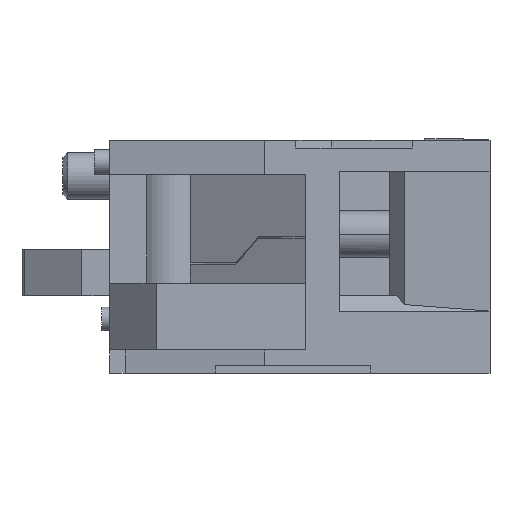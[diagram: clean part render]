
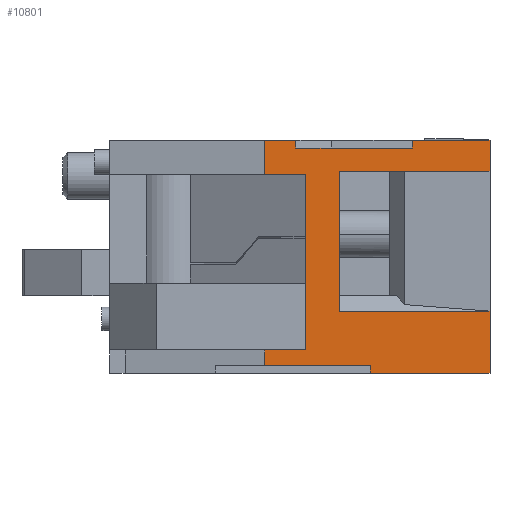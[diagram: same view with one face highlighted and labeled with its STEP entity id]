
A CAD part, left-side view. The second image highlights one B-rep face of the part: STEP entity #10801.
In plain terms, the highlighted planar face has unit normal (-1, 0, 0).
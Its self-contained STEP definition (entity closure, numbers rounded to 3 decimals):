
#189 = CARTESIAN_POINT ( 'NONE',  ( -14.75, -7.25, 15. ) ) ;
#265 = ORIENTED_EDGE ( 'NONE', *, *, #6056, .F. ) ;
#366 = VERTEX_POINT ( 'NONE', #8023 ) ;
#439 = CARTESIAN_POINT ( 'NONE',  ( -14.75, -0.35, 12.8 ) ) ;
#491 = EDGE_CURVE ( 'NONE', #366, #3977, #4374, .T. ) ;
#519 = VERTEX_POINT ( 'NONE', #2051 ) ;
#560 = EDGE_CURVE ( 'NONE', #6769, #1369, #902, .T. ) ;
#574 = LINE ( 'NONE', #5024, #9660 ) ;
#590 = VERTEX_POINT ( 'NONE', #10063 ) ;
#603 = CARTESIAN_POINT ( 'NONE',  ( -14.75, 0.25, 14.5 ) ) ;
#685 = CARTESIAN_POINT ( 'NONE',  ( -14.75, -12.25, 13. ) ) ;
#757 = CARTESIAN_POINT ( 'NONE',  ( -14.75, -5.75, 13. ) ) ;
#776 = DIRECTION ( 'NONE',  ( 0., 1., 0. ) ) ;
#902 = LINE ( 'NONE', #3028, #9973 ) ;
#904 = CARTESIAN_POINT ( 'NONE',  ( -14.75, -12.25, 0. ) ) ;
#1034 = ORIENTED_EDGE ( 'NONE', *, *, #2079, .F. ) ;
#1073 = DIRECTION ( 'NONE',  ( 0., -1., 0. ) ) ;
#1237 = LINE ( 'NONE', #8124, #5668 ) ;
#1348 = ORIENTED_EDGE ( 'NONE', *, *, #10605, .T. ) ;
#1369 = VERTEX_POINT ( 'NONE', #9600 ) ;
#1390 = ORIENTED_EDGE ( 'NONE', *, *, #4714, .F. ) ;
#1614 = LINE ( 'NONE', #7503, #6042 ) ;
#1750 = VERTEX_POINT ( 'NONE', #2438 ) ;
#1835 = VECTOR ( 'NONE', #7258, 1000. ) ;
#1918 = ORIENTED_EDGE ( 'NONE', *, *, #10995, .F. ) ;
#1955 = VECTOR ( 'NONE', #8393, 1000. ) ;
#2007 = DIRECTION ( 'NONE',  ( 0., 0., -1. ) ) ;
#2051 = CARTESIAN_POINT ( 'NONE',  ( -14.75, 2.25, 12.8 ) ) ;
#2079 = EDGE_CURVE ( 'NONE', #6727, #5574, #10752, .T. ) ;
#2119 = ORIENTED_EDGE ( 'NONE', *, *, #5991, .F. ) ;
#2438 = CARTESIAN_POINT ( 'NONE',  ( -14.75, 2.25, 0.5 ) ) ;
#2640 = VECTOR ( 'NONE', #6359, 1000. ) ;
#2793 = CARTESIAN_POINT ( 'NONE',  ( -14.75, 2.25, 1.5 ) ) ;
#2829 = ORIENTED_EDGE ( 'NONE', *, *, #3347, .T. ) ;
#2876 = LINE ( 'NONE', #4184, #4939 ) ;
#2981 = CARTESIAN_POINT ( 'NONE',  ( -14.75, -12.25, 15. ) ) ;
#3028 = CARTESIAN_POINT ( 'NONE',  ( -14.75, -12.25, 15. ) ) ;
#3035 = VECTOR ( 'NONE', #5325, 1000. ) ;
#3093 = CARTESIAN_POINT ( 'NONE',  ( -14.75, 0.25, 14.5 ) ) ;
#3347 = EDGE_CURVE ( 'NONE', #3743, #3998, #7196, .T. ) ;
#3407 = ORIENTED_EDGE ( 'NONE', *, *, #9380, .T. ) ;
#3434 = EDGE_LOOP ( 'NONE', ( #7631, #4710, #2829, #8449, #3407, #4458, #11154, #1034, #6610, #5505, #9369, #1918, #9407, #265, #7464, #1348, #1390, #2119 ) ) ;
#3436 = DIRECTION ( 'NONE',  ( 0., -1., 0. ) ) ;
#3618 = CARTESIAN_POINT ( 'NONE',  ( -14.75, -12.25, 4. ) ) ;
#3621 = FACE_OUTER_BOUND ( 'NONE', #3434, .T. ) ;
#3743 = VERTEX_POINT ( 'NONE', #5806 ) ;
#3799 = CARTESIAN_POINT ( 'NONE',  ( -14.75, -2.55, 13. ) ) ;
#3859 = LINE ( 'NONE', #757, #10550 ) ;
#3977 = VERTEX_POINT ( 'NONE', #4531 ) ;
#3998 = VERTEX_POINT ( 'NONE', #2793 ) ;
#4027 = EDGE_CURVE ( 'NONE', #10465, #590, #7327, .T. ) ;
#4048 = CARTESIAN_POINT ( 'NONE',  ( -14.75, -12.25, 0.5 ) ) ;
#4091 = VECTOR ( 'NONE', #10776, 1000. ) ;
#4167 = CARTESIAN_POINT ( 'NONE',  ( -14.75, -7.25, 14.5 ) ) ;
#4184 = CARTESIAN_POINT ( 'NONE',  ( -14.75, 2.25, 0. ) ) ;
#4214 = VERTEX_POINT ( 'NONE', #3093 ) ;
#4351 = CARTESIAN_POINT ( 'NONE',  ( -14.75, -0.35, 1.5 ) ) ;
#4355 = VERTEX_POINT ( 'NONE', #4167 ) ;
#4374 = LINE ( 'NONE', #3799, #4091 ) ;
#4458 = ORIENTED_EDGE ( 'NONE', *, *, #4027, .F. ) ;
#4531 = CARTESIAN_POINT ( 'NONE',  ( -14.75, -2.55, 13. ) ) ;
#4633 = EDGE_CURVE ( 'NONE', #4214, #4355, #1237, .T. ) ;
#4710 = ORIENTED_EDGE ( 'NONE', *, *, #8144, .T. ) ;
#4714 = EDGE_CURVE ( 'NONE', #10345, #7277, #9759, .T. ) ;
#4759 = LINE ( 'NONE', #10691, #1835 ) ;
#4822 = VERTEX_POINT ( 'NONE', #439 ) ;
#4925 = AXIS2_PLACEMENT_3D ( 'NONE', #6411, #7294, #2007 ) ;
#4939 = VECTOR ( 'NONE', #9426, 1000. ) ;
#5024 = CARTESIAN_POINT ( 'NONE',  ( -14.75, -12.25, 0. ) ) ;
#5177 = CARTESIAN_POINT ( 'NONE',  ( -14.75, -7.25, 14.5 ) ) ;
#5193 = LINE ( 'NONE', #7271, #7546 ) ;
#5277 = LINE ( 'NONE', #603, #5569 ) ;
#5325 = DIRECTION ( 'NONE',  ( 0., 1., 0. ) ) ;
#5374 = LINE ( 'NONE', #9678, #3035 ) ;
#5481 = CARTESIAN_POINT ( 'NONE',  ( -14.75, -4.55, 15. ) ) ;
#5492 = CARTESIAN_POINT ( 'NONE',  ( -14.75, 2.25, 15. ) ) ;
#5505 = ORIENTED_EDGE ( 'NONE', *, *, #491, .T. ) ;
#5531 = PLANE ( 'NONE',  #4925 ) ;
#5569 = VECTOR ( 'NONE', #6788, 1000. ) ;
#5574 = VERTEX_POINT ( 'NONE', #904 ) ;
#5649 = DIRECTION ( 'NONE',  ( 0., -1., 0. ) ) ;
#5668 = VECTOR ( 'NONE', #1073, 1000. ) ;
#5806 = CARTESIAN_POINT ( 'NONE',  ( -14.75, -0.35, 1.5 ) ) ;
#5895 = EDGE_CURVE ( 'NONE', #6727, #366, #1614, .T. ) ;
#5991 = EDGE_CURVE ( 'NONE', #519, #10345, #2876, .T. ) ;
#6042 = VECTOR ( 'NONE', #6684, 1000. ) ;
#6056 = EDGE_CURVE ( 'NONE', #4355, #6769, #10250, .T. ) ;
#6359 = DIRECTION ( 'NONE',  ( 0., 0., 1. ) ) ;
#6411 = CARTESIAN_POINT ( 'NONE',  ( -14.75, -12.25, 15. ) ) ;
#6464 = CARTESIAN_POINT ( 'NONE',  ( -14.75, -12.25, 15. ) ) ;
#6561 = EDGE_CURVE ( 'NONE', #3977, #7651, #3859, .T. ) ;
#6610 = ORIENTED_EDGE ( 'NONE', *, *, #5895, .T. ) ;
#6656 = EDGE_CURVE ( 'NONE', #4822, #519, #5374, .T. ) ;
#6684 = DIRECTION ( 'NONE',  ( 0., 1., 0. ) ) ;
#6727 = VERTEX_POINT ( 'NONE', #3618 ) ;
#6769 = VERTEX_POINT ( 'NONE', #189 ) ;
#6788 = DIRECTION ( 'NONE',  ( 0., 0., 1. ) ) ;
#7103 = VECTOR ( 'NONE', #9291, 1000. ) ;
#7196 = LINE ( 'NONE', #4351, #9516 ) ;
#7258 = DIRECTION ( 'NONE',  ( 0., 0., 1. ) ) ;
#7271 = CARTESIAN_POINT ( 'NONE',  ( -14.75, -0.35, 5.8 ) ) ;
#7277 = VERTEX_POINT ( 'NONE', #8032 ) ;
#7294 = DIRECTION ( 'NONE',  ( 1., 0., 0. ) ) ;
#7327 = LINE ( 'NONE', #5481, #2640 ) ;
#7393 = LINE ( 'NONE', #4048, #7103 ) ;
#7464 = ORIENTED_EDGE ( 'NONE', *, *, #4633, .F. ) ;
#7503 = CARTESIAN_POINT ( 'NONE',  ( -14.75, -2.55, 4. ) ) ;
#7546 = VECTOR ( 'NONE', #10703, 1000. ) ;
#7571 = CARTESIAN_POINT ( 'NONE',  ( -14.75, -12.25, 15. ) ) ;
#7631 = ORIENTED_EDGE ( 'NONE', *, *, #6656, .F. ) ;
#7651 = VERTEX_POINT ( 'NONE', #685 ) ;
#8023 = CARTESIAN_POINT ( 'NONE',  ( -14.75, -2.55, 4. ) ) ;
#8032 = CARTESIAN_POINT ( 'NONE',  ( -14.75, 0.25, 15. ) ) ;
#8124 = CARTESIAN_POINT ( 'NONE',  ( -14.75, -7.25, 14.5 ) ) ;
#8144 = EDGE_CURVE ( 'NONE', #4822, #3743, #5193, .T. ) ;
#8235 = VECTOR ( 'NONE', #11245, 1000. ) ;
#8393 = DIRECTION ( 'NONE',  ( 0., 0., -1. ) ) ;
#8449 = ORIENTED_EDGE ( 'NONE', *, *, #10348, .F. ) ;
#9103 = DIRECTION ( 'NONE',  ( 0., 0., -1. ) ) ;
#9291 = DIRECTION ( 'NONE',  ( 0., -1., 0. ) ) ;
#9369 = ORIENTED_EDGE ( 'NONE', *, *, #6561, .T. ) ;
#9380 = EDGE_CURVE ( 'NONE', #1750, #590, #7393, .T. ) ;
#9407 = ORIENTED_EDGE ( 'NONE', *, *, #560, .F. ) ;
#9426 = DIRECTION ( 'NONE',  ( 0., 0., 1. ) ) ;
#9489 = VECTOR ( 'NONE', #9932, 1000. ) ;
#9516 = VECTOR ( 'NONE', #776, 1000. ) ;
#9600 = CARTESIAN_POINT ( 'NONE',  ( -14.75, -12.25, 15. ) ) ;
#9660 = VECTOR ( 'NONE', #5649, 1000. ) ;
#9678 = CARTESIAN_POINT ( 'NONE',  ( -14.75, -12.25, 12.8 ) ) ;
#9759 = LINE ( 'NONE', #6464, #9489 ) ;
#9932 = DIRECTION ( 'NONE',  ( 0., -1., 0. ) ) ;
#9973 = VECTOR ( 'NONE', #10882, 1000. ) ;
#10023 = CARTESIAN_POINT ( 'NONE',  ( -14.75, -4.55, 0. ) ) ;
#10063 = CARTESIAN_POINT ( 'NONE',  ( -14.75, -4.55, 0.5 ) ) ;
#10250 = LINE ( 'NONE', #5177, #8235 ) ;
#10345 = VERTEX_POINT ( 'NONE', #5492 ) ;
#10348 = EDGE_CURVE ( 'NONE', #1750, #3998, #4759, .T. ) ;
#10465 = VERTEX_POINT ( 'NONE', #10023 ) ;
#10550 = VECTOR ( 'NONE', #3436, 1000. ) ;
#10605 = EDGE_CURVE ( 'NONE', #4214, #7277, #5277, .T. ) ;
#10608 = EDGE_CURVE ( 'NONE', #10465, #5574, #574, .T. ) ;
#10691 = CARTESIAN_POINT ( 'NONE',  ( -14.75, 2.25, 0. ) ) ;
#10703 = DIRECTION ( 'NONE',  ( 0., 0., -1. ) ) ;
#10715 = LINE ( 'NONE', #7571, #1955 ) ;
#10752 = LINE ( 'NONE', #2981, #11279 ) ;
#10776 = DIRECTION ( 'NONE',  ( 0., 0., 1. ) ) ;
#10801 = ADVANCED_FACE ( 'NONE', ( #3621 ), #5531, .F. ) ;
#10882 = DIRECTION ( 'NONE',  ( 0., -1., 0. ) ) ;
#10995 = EDGE_CURVE ( 'NONE', #1369, #7651, #10715, .T. ) ;
#11154 = ORIENTED_EDGE ( 'NONE', *, *, #10608, .T. ) ;
#11245 = DIRECTION ( 'NONE',  ( 0., 0., 1. ) ) ;
#11279 = VECTOR ( 'NONE', #9103, 1000. ) ;
